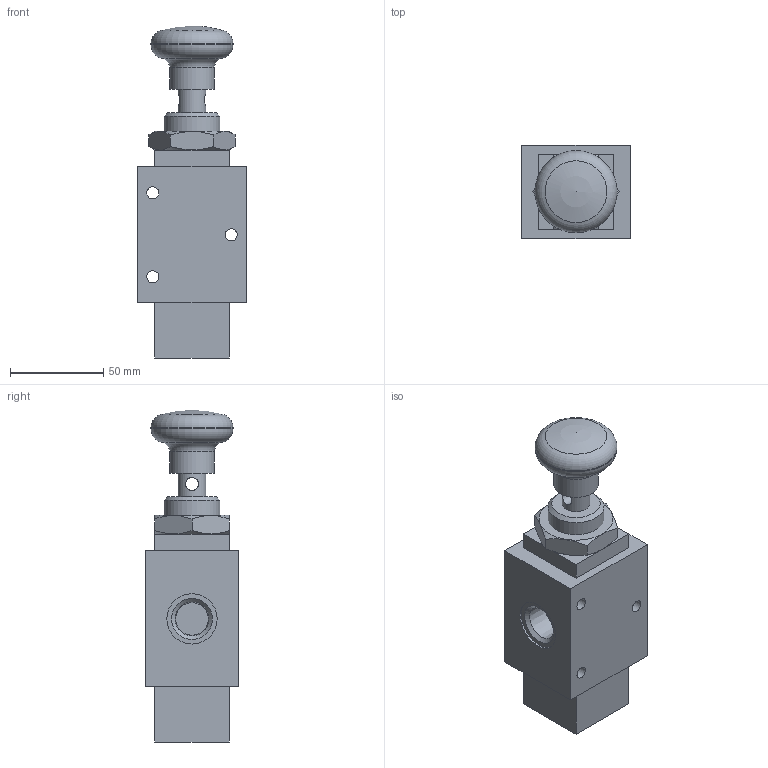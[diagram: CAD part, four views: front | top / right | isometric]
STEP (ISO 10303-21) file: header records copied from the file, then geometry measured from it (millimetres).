
FILE_DESCRIPTION(/* description */ (''),/* implementation_level */ '2;1');
FILE_NAME(/* name */ 'I:\Area Tecnica\Progetti\P118 (OIL&GAS)\DOCUMENTAZIONE\CATALOGO\VALVOLE INOX\LIBRERIA - SS VALV INOX\VALV SS12 NPT\SS1232#####\SS1232C0802#.stp',/* time_stamp */ '2016-06-14T08:10:23+02:00',/* author */ ('Maniean1'),/* organization */ ('Pneumax S.p.A.'),/* preprocessor_version */ 'ST-DEVELOPER v15.2',/* originating_system */ 'Autodesk Inventor 2014',/* authorisation */ '');
FILE_SCHEMA (('AUTOMOTIVE_DESIGN { 1 0 10303 214 3 1 1 }'));
Length unit declared in the file: millimetre
Products named in the file (3): SS1232C0802#-; DADO-; SS1232C0802#
Bounding box: 58 x 50 x 178 mm (x, y, z)
Volume: 307010.1 mm3; surface area: 44317.4 mm2
Topology: 2 solids, 2 shells, 62 faces, 138 edges, 90 vertices
Faces by surface type: plane 32, cylinder 15, cone 11, torus 3, sphere 1
Full cylindrical faces by diameter (mm): 6.5 x3, 7 x1, 14.9 x1, 17.475 x3, 24 x1, 27 x3, 28.376 x1, 30 x1, 44 x1
Entity records: 1608 total; most frequent: CARTESIAN_POINT 333, DIRECTION 258, ORIENTED_EDGE 194, EDGE_LOOP 112, AXIS2_PLACEMENT_3D 108, EDGE_CURVE 97, VERTEX_POINT 79, FACE_BOUND 64
